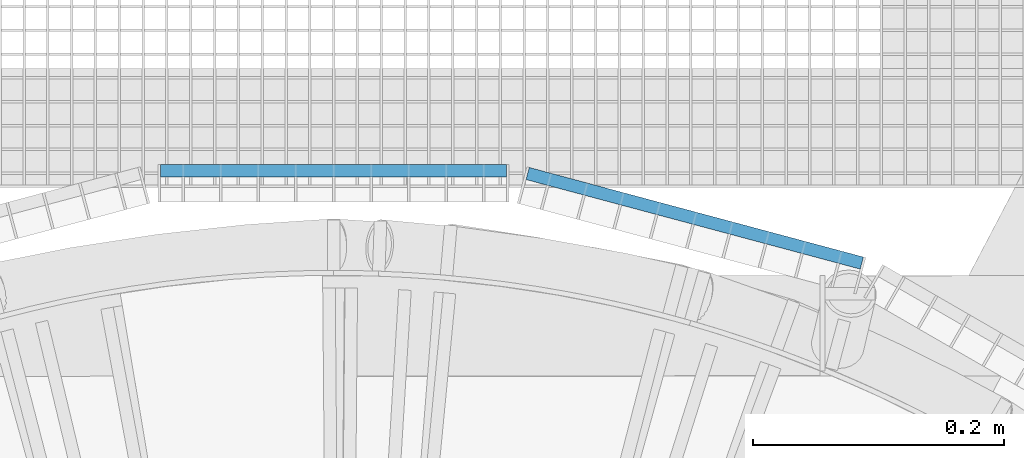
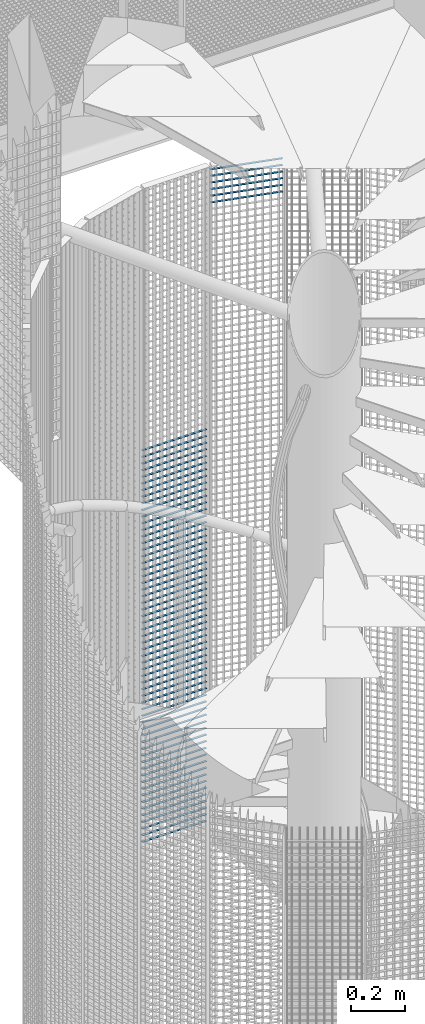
# One storey, part 319 of 1183: 66 beams, 2 elements without a shape of their own.
"""IFC2X3 building model written with IfcOpenShell, lengths in millimetres."""

from ifc_helpers import new_model, si_unit, frame, origin_with_axes, origin_2d_with_axis, place, context, subcontext, project, spatial, rectangle, extrude, material, type_object, element, aggregate, save


model = new_model("IFC2X3")

# Units and contexts
model_context = context("Model", 3, precision=1e-05, world=origin_with_axes())
body_context = subcontext(model_context, "Body", "Model", "MODEL_VIEW")
ifc_project = project(units=[si_unit("LENGTHUNIT", "METRE", prefix="MILLI"), si_unit("AREAUNIT", "SQUARE_METRE"), si_unit("VOLUMEUNIT", "CUBIC_METRE"), si_unit("MASSUNIT", "GRAM", prefix="KILO"), si_unit("TIMEUNIT", "SECOND"), si_unit("PLANEANGLEUNIT", "RADIAN"), si_unit("SOLIDANGLEUNIT", "STERADIAN"), si_unit("THERMODYNAMICTEMPERATUREUNIT", "DEGREE_CELSIUS"), si_unit("LUMINOUSINTENSITYUNIT", "LUMEN")], contexts=[model_context])

# Site, building, storey
site_placement = place(None, origin_with_axes())
site = spatial("IfcSite", under=ifc_project, at=site_placement, Name="Undefined", CompositionType="ELEMENT")
building_placement = place(site_placement, origin_with_axes())
building = spatial("IfcBuilding", under=site, at=building_placement, Name="Undefined", CompositionType="ELEMENT")
storey_placement = place(building_placement, origin_with_axes())
storey = spatial("IfcBuildingStorey", under=building, at=storey_placement, Name="Undefined", CompositionType="ELEMENT", Elevation=0.0)

# Assembly, beams
assembly_1_placement = place(storey_placement, origin_with_axes())
assembly_1 = element("IfcElementAssembly", 1, at=assembly_1_placement, inside=storey, Name="BORDURE", AssemblyPlace="NOTDEFINED", PredefinedType="NOTDEFINED")
ifc_material = material(Name="STEEL/S235JR")
beam_type = type_object("IfcBeamType", Name="PL2*10", PredefinedType="NOTDEFINED")
beam_1_placement = place(assembly_1_placement, frame((137.996003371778, 1113.47999999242, 4800.0), z_axis=(0.0, 1.0, 0.0), x_axis=(-1.0, 0.0, 0.0)))
beam_1 = element("IfcBeam", 2, at=beam_1_placement, type_object=beam_type, material=ifc_material, Name="ENTRETOISE", context=body_context, shape_type="SweptSolid", body=[
    extrude(rectangle(XDim=2.0, YDim=10.0, at=origin_2d_with_axis()), frame((275.999999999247, 9.09494701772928e-13, 1.53210777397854e-14), z_axis=(-1.0, 0.0, 0.0), x_axis=(0.0, -1.0, 0.0)), (0.0, 0.0, 1.0), 276.0),
])
beam_2_placement = place(assembly_1_placement, frame((137.996003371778, 1113.47999999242, 4770.0), z_axis=(0.0, 1.0, 0.0), x_axis=(-1.0, 0.0, 0.0)))
beam_2 = element("IfcBeam", 3, at=beam_2_placement, type_object=beam_type, material=ifc_material, Name="ENTRETOISE", context=body_context, shape_type="SweptSolid", body=[
    extrude(rectangle(XDim=2.0, YDim=10.0, at=origin_2d_with_axis()), frame((275.999999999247, 9.09494701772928e-13, 1.53210777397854e-14), z_axis=(-1.0, 0.0, 0.0), x_axis=(0.0, -1.0, 0.0)), (0.0, 0.0, 1.0), 276.0),
])
beam_3_placement = place(assembly_1_placement, frame((137.996003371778, 1113.47999999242, 4740.0), z_axis=(0.0, 1.0, 0.0), x_axis=(-1.0, 0.0, 0.0)))
beam_3 = element("IfcBeam", 4, at=beam_3_placement, type_object=beam_type, material=ifc_material, Name="ENTRETOISE", context=body_context, shape_type="SweptSolid", body=[
    extrude(rectangle(XDim=2.0, YDim=10.0, at=origin_2d_with_axis()), frame((275.999999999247, 9.09494701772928e-13, 1.53210777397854e-14), z_axis=(-1.0, 0.0, 0.0), x_axis=(0.0, -1.0, 0.0)), (0.0, 0.0, 1.0), 276.0),
])
beam_4_placement = place(assembly_1_placement, frame((137.996003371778, 1113.47999999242, 4710.0), z_axis=(0.0, 1.0, 0.0), x_axis=(-1.0, 0.0, 0.0)))
beam_4 = element("IfcBeam", 5, at=beam_4_placement, type_object=beam_type, material=ifc_material, Name="ENTRETOISE", context=body_context, shape_type="SweptSolid", body=[
    extrude(rectangle(XDim=2.0, YDim=10.0, at=origin_2d_with_axis()), frame((275.999999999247, 9.09494701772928e-13, 1.53210777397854e-14), z_axis=(-1.0, 0.0, 0.0), x_axis=(0.0, -1.0, 0.0)), (0.0, 0.0, 1.0), 276.0),
])
beam_5_placement = place(assembly_1_placement, frame((137.996003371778, 1113.47999999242, 4680.0), z_axis=(0.0, 1.0, 0.0), x_axis=(-1.0, 0.0, 0.0)))
beam_5 = element("IfcBeam", 6, at=beam_5_placement, type_object=beam_type, material=ifc_material, Name="ENTRETOISE", context=body_context, shape_type="SweptSolid", body=[
    extrude(rectangle(XDim=2.0, YDim=10.0, at=origin_2d_with_axis()), frame((275.999999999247, 9.09494701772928e-13, 1.53210777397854e-14), z_axis=(-1.0, 0.0, 0.0), x_axis=(0.0, -1.0, 0.0)), (0.0, 0.0, 1.0), 276.0),
])
beam_6_placement = place(assembly_1_placement, frame((137.996003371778, 1113.47999999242, 4650.0), z_axis=(0.0, 1.0, 0.0), x_axis=(-1.0, 0.0, 0.0)))
beam_6 = element("IfcBeam", 7, at=beam_6_placement, type_object=beam_type, material=ifc_material, Name="ENTRETOISE", context=body_context, shape_type="SweptSolid", body=[
    extrude(rectangle(XDim=2.0, YDim=10.0, at=origin_2d_with_axis()), frame((275.999999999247, 9.09494701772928e-13, 1.53210777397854e-14), z_axis=(-1.0, 0.0, 0.0), x_axis=(0.0, -1.0, 0.0)), (0.0, 0.0, 1.0), 276.0),
])
beam_7_placement = place(assembly_1_placement, frame((137.996003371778, 1113.47999999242, 4620.0), z_axis=(0.0, 1.0, 0.0), x_axis=(-1.0, 0.0, 0.0)))
beam_7 = element("IfcBeam", 8, at=beam_7_placement, type_object=beam_type, material=ifc_material, Name="ENTRETOISE", context=body_context, shape_type="SweptSolid", body=[
    extrude(rectangle(XDim=2.0, YDim=10.0, at=origin_2d_with_axis()), frame((275.999999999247, 9.09494701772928e-13, 1.53210777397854e-14), z_axis=(-1.0, 0.0, 0.0), x_axis=(0.0, -1.0, 0.0)), (0.0, 0.0, 1.0), 276.0),
])
beam_8_placement = place(assembly_1_placement, frame((137.996003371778, 1113.47999999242, 4590.0), z_axis=(0.0, 1.0, 0.0), x_axis=(-1.0, 0.0, 0.0)))
beam_8 = element("IfcBeam", 9, at=beam_8_placement, type_object=beam_type, material=ifc_material, Name="ENTRETOISE", context=body_context, shape_type="SweptSolid", body=[
    extrude(rectangle(XDim=2.0, YDim=10.0, at=origin_2d_with_axis()), frame((275.999999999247, 9.09494701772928e-13, 1.53210777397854e-14), z_axis=(-1.0, 0.0, 0.0), x_axis=(0.0, -1.0, 0.0)), (0.0, 0.0, 1.0), 276.0),
])
beam_9_placement = place(assembly_1_placement, frame((137.996003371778, 1113.47999999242, 4560.0), z_axis=(0.0, 1.0, 0.0), x_axis=(-1.0, 0.0, 0.0)))
beam_9 = element("IfcBeam", 10, at=beam_9_placement, type_object=beam_type, material=ifc_material, Name="ENTRETOISE", context=body_context, shape_type="SweptSolid", body=[
    extrude(rectangle(XDim=2.0, YDim=10.0, at=origin_2d_with_axis()), frame((275.999999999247, 9.09494701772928e-13, 1.53210777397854e-14), z_axis=(-1.0, 0.0, 0.0), x_axis=(0.0, -1.0, 0.0)), (0.0, 0.0, 1.0), 276.0),
])
beam_10_placement = place(assembly_1_placement, frame((137.996003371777, 1113.47999999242, 4530.0), z_axis=(0.0, 1.0, 0.0), x_axis=(-1.0, 0.0, 0.0)))
beam_10 = element("IfcBeam", 11, at=beam_10_placement, type_object=beam_type, material=ifc_material, Name="ENTRETOISE", context=body_context, shape_type="SweptSolid", body=[
    extrude(rectangle(XDim=2.0, YDim=10.0, at=origin_2d_with_axis()), frame((275.999999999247, 9.09494701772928e-13, 1.53210777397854e-14), z_axis=(-1.0, 0.0, 0.0), x_axis=(0.0, -1.0, 0.0)), (0.0, 0.0, 1.0), 276.0),
])
beam_11_placement = place(assembly_1_placement, frame((137.996003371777, 1113.47999999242, 4500.0), z_axis=(0.0, 1.0, 0.0), x_axis=(-1.0, 0.0, 0.0)))
beam_11 = element("IfcBeam", 12, at=beam_11_placement, type_object=beam_type, material=ifc_material, Name="ENTRETOISE", context=body_context, shape_type="SweptSolid", body=[
    extrude(rectangle(XDim=2.0, YDim=10.0, at=origin_2d_with_axis()), frame((275.999999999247, 9.09494701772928e-13, 1.53210777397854e-14), z_axis=(-1.0, 0.0, 0.0), x_axis=(0.0, -1.0, 0.0)), (0.0, 0.0, 1.0), 276.0),
])
beam_12_placement = place(assembly_1_placement, frame((137.996003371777, 1113.47999999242, 4470.0), z_axis=(0.0, 1.0, 0.0), x_axis=(-1.0, 0.0, 0.0)))
beam_12 = element("IfcBeam", 13, at=beam_12_placement, type_object=beam_type, material=ifc_material, Name="ENTRETOISE", context=body_context, shape_type="SweptSolid", body=[
    extrude(rectangle(XDim=2.0, YDim=10.0, at=origin_2d_with_axis()), frame((275.999999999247, 9.09494701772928e-13, 1.53210777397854e-14), z_axis=(-1.0, 0.0, 0.0), x_axis=(0.0, -1.0, 0.0)), (0.0, 0.0, 1.0), 276.0),
])
beam_13_placement = place(assembly_1_placement, frame((137.996003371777, 1113.47999999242, 4440.0), z_axis=(0.0, 1.0, 0.0), x_axis=(-1.0, 0.0, 0.0)))
beam_13 = element("IfcBeam", 14, at=beam_13_placement, type_object=beam_type, material=ifc_material, Name="ENTRETOISE", context=body_context, shape_type="SweptSolid", body=[
    extrude(rectangle(XDim=2.0, YDim=10.0, at=origin_2d_with_axis()), frame((275.999999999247, 9.09494701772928e-13, 1.53210777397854e-14), z_axis=(-1.0, 0.0, 0.0), x_axis=(0.0, -1.0, 0.0)), (0.0, 0.0, 1.0), 276.0),
])
beam_14_placement = place(assembly_1_placement, frame((137.996003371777, 1113.47999999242, 4410.0), z_axis=(0.0, 1.0, 0.0), x_axis=(-1.0, 0.0, 0.0)))
beam_14 = element("IfcBeam", 15, at=beam_14_placement, type_object=beam_type, material=ifc_material, Name="ENTRETOISE", context=body_context, shape_type="SweptSolid", body=[
    extrude(rectangle(XDim=2.0, YDim=10.0, at=origin_2d_with_axis()), frame((275.999999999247, 9.09494701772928e-13, 1.53210777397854e-14), z_axis=(-1.0, 0.0, 0.0), x_axis=(0.0, -1.0, 0.0)), (0.0, 0.0, 1.0), 276.0),
])
beam_15_placement = place(assembly_1_placement, frame((137.996003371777, 1113.47999999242, 4380.0), z_axis=(0.0, 1.0, 0.0), x_axis=(-1.0, 0.0, 0.0)))
beam_15 = element("IfcBeam", 16, at=beam_15_placement, type_object=beam_type, material=ifc_material, Name="ENTRETOISE", context=body_context, shape_type="SweptSolid", body=[
    extrude(rectangle(XDim=2.0, YDim=10.0, at=origin_2d_with_axis()), frame((275.999999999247, 9.09494701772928e-13, 1.53210777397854e-14), z_axis=(-1.0, 0.0, 0.0), x_axis=(0.0, -1.0, 0.0)), (0.0, 0.0, 1.0), 276.0),
])
beam_16_placement = place(assembly_1_placement, frame((137.996003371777, 1113.47999999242, 4350.0), z_axis=(0.0, 1.0, 0.0), x_axis=(-1.0, 0.0, 0.0)))
beam_16 = element("IfcBeam", 17, at=beam_16_placement, type_object=beam_type, material=ifc_material, Name="ENTRETOISE", context=body_context, shape_type="SweptSolid", body=[
    extrude(rectangle(XDim=2.0, YDim=10.0, at=origin_2d_with_axis()), frame((275.999999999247, 9.09494701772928e-13, 1.53210777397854e-14), z_axis=(-1.0, 0.0, 0.0), x_axis=(0.0, -1.0, 0.0)), (0.0, 0.0, 1.0), 276.0),
])
beam_17_placement = place(assembly_1_placement, frame((137.996003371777, 1113.47999999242, 4320.0), z_axis=(0.0, 1.0, 0.0), x_axis=(-1.0, 0.0, 0.0)))
beam_17 = element("IfcBeam", 18, at=beam_17_placement, type_object=beam_type, material=ifc_material, Name="ENTRETOISE", context=body_context, shape_type="SweptSolid", body=[
    extrude(rectangle(XDim=2.0, YDim=10.0, at=origin_2d_with_axis()), frame((275.999999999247, 9.09494701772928e-13, 1.53210777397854e-14), z_axis=(-1.0, 0.0, 0.0), x_axis=(0.0, -1.0, 0.0)), (0.0, 0.0, 1.0), 276.0),
])
beam_18_placement = place(assembly_1_placement, frame((137.996003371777, 1113.47999999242, 4290.0), z_axis=(0.0, 1.0, 0.0), x_axis=(-1.0, 0.0, 0.0)))
beam_18 = element("IfcBeam", 19, at=beam_18_placement, type_object=beam_type, material=ifc_material, Name="ENTRETOISE", context=body_context, shape_type="SweptSolid", body=[
    extrude(rectangle(XDim=2.0, YDim=10.0, at=origin_2d_with_axis()), frame((275.999999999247, 9.09494701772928e-13, 1.53210777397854e-14), z_axis=(-1.0, 0.0, 0.0), x_axis=(0.0, -1.0, 0.0)), (0.0, 0.0, 1.0), 276.0),
])
beam_19_placement = place(assembly_1_placement, frame((137.996003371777, 1113.47999999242, 4260.0), z_axis=(0.0, 1.0, 0.0), x_axis=(-1.0, 0.0, 0.0)))
beam_19 = element("IfcBeam", 20, at=beam_19_placement, type_object=beam_type, material=ifc_material, Name="ENTRETOISE", context=body_context, shape_type="SweptSolid", body=[
    extrude(rectangle(XDim=2.0, YDim=10.0, at=origin_2d_with_axis()), frame((275.999999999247, 9.09494701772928e-13, 1.53210777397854e-14), z_axis=(-1.0, 0.0, 0.0), x_axis=(0.0, -1.0, 0.0)), (0.0, 0.0, 1.0), 276.0),
])
beam_20_placement = place(assembly_1_placement, frame((137.996003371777, 1113.47999999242, 4230.0), z_axis=(0.0, 1.0, 0.0), x_axis=(-1.0, 0.0, 0.0)))
beam_20 = element("IfcBeam", 21, at=beam_20_placement, type_object=beam_type, material=ifc_material, Name="ENTRETOISE", context=body_context, shape_type="SweptSolid", body=[
    extrude(rectangle(XDim=2.0, YDim=10.0, at=origin_2d_with_axis()), frame((275.999999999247, 9.09494701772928e-13, 1.53210777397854e-14), z_axis=(-1.0, 0.0, 0.0), x_axis=(0.0, -1.0, 0.0)), (0.0, 0.0, 1.0), 276.0),
])
beam_21_placement = place(assembly_1_placement, frame((137.996003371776, 1113.47999999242, 4200.0), z_axis=(0.0, 1.0, 0.0), x_axis=(-1.0, 0.0, 0.0)))
beam_21 = element("IfcBeam", 22, at=beam_21_placement, type_object=beam_type, material=ifc_material, Name="ENTRETOISE", context=body_context, shape_type="SweptSolid", body=[
    extrude(rectangle(XDim=2.0, YDim=10.0, at=origin_2d_with_axis()), frame((275.999999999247, 9.09494701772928e-13, 1.53210777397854e-14), z_axis=(-1.0, 0.0, 0.0), x_axis=(0.0, -1.0, 0.0)), (0.0, 0.0, 1.0), 276.0),
])
beam_22_placement = place(assembly_1_placement, frame((137.996003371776, 1113.47999999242, 4170.0), z_axis=(0.0, 1.0, 0.0), x_axis=(-1.0, 0.0, 0.0)))
beam_22 = element("IfcBeam", 23, at=beam_22_placement, type_object=beam_type, material=ifc_material, Name="ENTRETOISE", context=body_context, shape_type="SweptSolid", body=[
    extrude(rectangle(XDim=2.0, YDim=10.0, at=origin_2d_with_axis()), frame((275.999999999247, 9.09494701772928e-13, 1.53210777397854e-14), z_axis=(-1.0, 0.0, 0.0), x_axis=(0.0, -1.0, 0.0)), (0.0, 0.0, 1.0), 276.0),
])
beam_23_placement = place(assembly_1_placement, frame((137.996003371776, 1113.47999999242, 4140.0), z_axis=(0.0, 1.0, 0.0), x_axis=(-1.0, 0.0, 0.0)))
beam_23 = element("IfcBeam", 24, at=beam_23_placement, type_object=beam_type, material=ifc_material, Name="ENTRETOISE", context=body_context, shape_type="SweptSolid", body=[
    extrude(rectangle(XDim=2.0, YDim=10.0, at=origin_2d_with_axis()), frame((275.999999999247, 9.09494701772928e-13, 1.53210777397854e-14), z_axis=(-1.0, 0.0, 0.0), x_axis=(0.0, -1.0, 0.0)), (0.0, 0.0, 1.0), 276.0),
])
beam_24_placement = place(assembly_1_placement, frame((137.996003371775, 1113.47999999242, 3720.0), z_axis=(0.0, 1.0, 0.0), x_axis=(-1.0, 0.0, 0.0)))
beam_24 = element("IfcBeam", 25, at=beam_24_placement, type_object=beam_type, material=ifc_material, Name="ENTRETOISE", context=body_context, shape_type="SweptSolid", body=[
    extrude(rectangle(XDim=2.0, YDim=10.0, at=origin_2d_with_axis()), frame((275.999999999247, 9.09494701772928e-13, 1.53210777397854e-14), z_axis=(-1.0, 0.0, 0.0), x_axis=(0.0, -1.0, 0.0)), (0.0, 0.0, 1.0), 276.0),
])
beam_25_placement = place(assembly_1_placement, frame((137.996003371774, 1113.47999999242, 3690.0), z_axis=(0.0, 1.0, 0.0), x_axis=(-1.0, 0.0, 0.0)))
beam_25 = element("IfcBeam", 26, at=beam_25_placement, type_object=beam_type, material=ifc_material, Name="ENTRETOISE", context=body_context, shape_type="SweptSolid", body=[
    extrude(rectangle(XDim=2.0, YDim=10.0, at=origin_2d_with_axis()), frame((275.999999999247, 9.09494701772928e-13, 1.53210777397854e-14), z_axis=(-1.0, 0.0, 0.0), x_axis=(0.0, -1.0, 0.0)), (0.0, 0.0, 1.0), 276.0),
])
beam_26_placement = place(assembly_1_placement, frame((137.996003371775, 1113.47999999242, 3750.0), z_axis=(0.0, 1.0, 0.0), x_axis=(-1.0, 0.0, 0.0)))
beam_26 = element("IfcBeam", 27, at=beam_26_placement, type_object=beam_type, material=ifc_material, Name="ENTRETOISE", context=body_context, shape_type="SweptSolid", body=[
    extrude(rectangle(XDim=2.0, YDim=10.0, at=origin_2d_with_axis()), frame((275.999999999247, 9.09494701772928e-13, 1.53210777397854e-14), z_axis=(-1.0, 0.0, 0.0), x_axis=(0.0, -1.0, 0.0)), (0.0, 0.0, 1.0), 276.0),
])
beam_27_placement = place(assembly_1_placement, frame((137.996003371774, 1113.47999999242, 3660.0), z_axis=(0.0, 1.0, 0.0), x_axis=(-1.0, 0.0, 0.0)))
beam_27 = element("IfcBeam", 28, at=beam_27_placement, type_object=beam_type, material=ifc_material, Name="ENTRETOISE", context=body_context, shape_type="SweptSolid", body=[
    extrude(rectangle(XDim=2.0, YDim=10.0, at=origin_2d_with_axis()), frame((275.999999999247, 9.09494701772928e-13, 1.53210777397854e-14), z_axis=(-1.0, 0.0, 0.0), x_axis=(0.0, -1.0, 0.0)), (0.0, 0.0, 1.0), 276.0),
])
beam_28_placement = place(assembly_1_placement, frame((137.996003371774, 1113.47999999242, 3630.0), z_axis=(0.0, 1.0, 0.0), x_axis=(-1.0, 0.0, 0.0)))
beam_28 = element("IfcBeam", 29, at=beam_28_placement, type_object=beam_type, material=ifc_material, Name="ENTRETOISE", context=body_context, shape_type="SweptSolid", body=[
    extrude(rectangle(XDim=2.0, YDim=10.0, at=origin_2d_with_axis()), frame((275.999999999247, 9.09494701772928e-13, 1.53210777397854e-14), z_axis=(-1.0, 0.0, 0.0), x_axis=(0.0, -1.0, 0.0)), (0.0, 0.0, 1.0), 276.0),
])
beam_29_placement = place(assembly_1_placement, frame((137.996003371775, 1113.47999999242, 3780.0), z_axis=(0.0, 1.0, 0.0), x_axis=(-1.0, 0.0, 0.0)))
beam_29 = element("IfcBeam", 30, at=beam_29_placement, type_object=beam_type, material=ifc_material, Name="ENTRETOISE", context=body_context, shape_type="SweptSolid", body=[
    extrude(rectangle(XDim=2.0, YDim=10.0, at=origin_2d_with_axis()), frame((275.999999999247, 9.09494701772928e-13, 1.53210777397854e-14), z_axis=(-1.0, 0.0, 0.0), x_axis=(0.0, -1.0, 0.0)), (0.0, 0.0, 1.0), 276.0),
])
beam_30_placement = place(assembly_1_placement, frame((137.996003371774, 1113.47999999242, 3600.0), z_axis=(0.0, 1.0, 0.0), x_axis=(-1.0, 0.0, 0.0)))
beam_30 = element("IfcBeam", 31, at=beam_30_placement, type_object=beam_type, material=ifc_material, Name="ENTRETOISE", context=body_context, shape_type="SweptSolid", body=[
    extrude(rectangle(XDim=2.0, YDim=10.0, at=origin_2d_with_axis()), frame((275.999999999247, 9.09494701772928e-13, 1.53210777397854e-14), z_axis=(-1.0, 0.0, 0.0), x_axis=(0.0, -1.0, 0.0)), (0.0, 0.0, 1.0), 276.0),
])
beam_31_placement = place(assembly_1_placement, frame((137.996003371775, 1113.47999999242, 3810.0), z_axis=(0.0, 1.0, 0.0), x_axis=(-1.0, 0.0, 0.0)))
beam_31 = element("IfcBeam", 32, at=beam_31_placement, type_object=beam_type, material=ifc_material, Name="ENTRETOISE", context=body_context, shape_type="SweptSolid", body=[
    extrude(rectangle(XDim=2.0, YDim=10.0, at=origin_2d_with_axis()), frame((275.999999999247, 9.09494701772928e-13, 1.53210777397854e-14), z_axis=(-1.0, 0.0, 0.0), x_axis=(0.0, -1.0, 0.0)), (0.0, 0.0, 1.0), 276.0),
])
beam_32_placement = place(assembly_1_placement, frame((137.996003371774, 1113.47999999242, 3570.0), z_axis=(0.0, 1.0, 0.0), x_axis=(-1.0, 0.0, 0.0)))
beam_32 = element("IfcBeam", 33, at=beam_32_placement, type_object=beam_type, material=ifc_material, Name="ENTRETOISE", context=body_context, shape_type="SweptSolid", body=[
    extrude(rectangle(XDim=2.0, YDim=10.0, at=origin_2d_with_axis()), frame((275.999999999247, 9.09494701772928e-13, 1.53210777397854e-14), z_axis=(-1.0, 0.0, 0.0), x_axis=(0.0, -1.0, 0.0)), (0.0, 0.0, 1.0), 276.0),
])
beam_33_placement = place(assembly_1_placement, frame((137.996003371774, 1113.47999999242, 3540.0), z_axis=(0.0, 1.0, 0.0), x_axis=(-1.0, 0.0, 0.0)))
beam_33 = element("IfcBeam", 34, at=beam_33_placement, type_object=beam_type, material=ifc_material, Name="ENTRETOISE", context=body_context, shape_type="SweptSolid", body=[
    extrude(rectangle(XDim=2.0, YDim=10.0, at=origin_2d_with_axis()), frame((275.999999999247, 9.09494701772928e-13, 1.53210777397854e-14), z_axis=(-1.0, 0.0, 0.0), x_axis=(0.0, -1.0, 0.0)), (0.0, 0.0, 1.0), 276.0),
])
beam_34_placement = place(assembly_1_placement, frame((137.996003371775, 1113.47999999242, 3840.0), z_axis=(0.0, 1.0, 0.0), x_axis=(-1.0, 0.0, 0.0)))
beam_34 = element("IfcBeam", 35, at=beam_34_placement, type_object=beam_type, material=ifc_material, Name="ENTRETOISE", context=body_context, shape_type="SweptSolid", body=[
    extrude(rectangle(XDim=2.0, YDim=10.0, at=origin_2d_with_axis()), frame((275.999999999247, 9.09494701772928e-13, 1.53210777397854e-14), z_axis=(-1.0, 0.0, 0.0), x_axis=(0.0, -1.0, 0.0)), (0.0, 0.0, 1.0), 276.0),
])
beam_35_placement = place(assembly_1_placement, frame((137.996003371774, 1113.47999999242, 3510.0), z_axis=(0.0, 1.0, 0.0), x_axis=(-1.0, 0.0, 0.0)))
beam_35 = element("IfcBeam", 36, at=beam_35_placement, type_object=beam_type, material=ifc_material, Name="ENTRETOISE", context=body_context, shape_type="SweptSolid", body=[
    extrude(rectangle(XDim=2.0, YDim=10.0, at=origin_2d_with_axis()), frame((275.999999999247, 9.09494701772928e-13, 1.53210777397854e-14), z_axis=(-1.0, 0.0, 0.0), x_axis=(0.0, -1.0, 0.0)), (0.0, 0.0, 1.0), 276.0),
])
beam_36_placement = place(assembly_1_placement, frame((137.996003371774, 1113.47999999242, 3480.0), z_axis=(0.0, 1.0, 0.0), x_axis=(-1.0, 0.0, 0.0)))
beam_36 = element("IfcBeam", 37, at=beam_36_placement, type_object=beam_type, material=ifc_material, Name="ENTRETOISE", context=body_context, shape_type="SweptSolid", body=[
    extrude(rectangle(XDim=2.0, YDim=10.0, at=origin_2d_with_axis()), frame((275.999999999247, 9.09494701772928e-13, 1.53210777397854e-14), z_axis=(-1.0, 0.0, 0.0), x_axis=(0.0, -1.0, 0.0)), (0.0, 0.0, 1.0), 276.0),
])
beam_37_placement = place(assembly_1_placement, frame((137.996003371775, 1113.47999999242, 3870.0), z_axis=(0.0, 1.0, 0.0), x_axis=(-1.0, 0.0, 0.0)))
beam_37 = element("IfcBeam", 38, at=beam_37_placement, type_object=beam_type, material=ifc_material, Name="ENTRETOISE", context=body_context, shape_type="SweptSolid", body=[
    extrude(rectangle(XDim=2.0, YDim=10.0, at=origin_2d_with_axis()), frame((275.999999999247, 9.09494701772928e-13, 1.53210777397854e-14), z_axis=(-1.0, 0.0, 0.0), x_axis=(0.0, -1.0, 0.0)), (0.0, 0.0, 1.0), 276.0),
])
beam_38_placement = place(assembly_1_placement, frame((137.996003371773, 1113.47999999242, 3450.0), z_axis=(0.0, 1.0, 0.0), x_axis=(-1.0, 0.0, 0.0)))
beam_38 = element("IfcBeam", 39, at=beam_38_placement, type_object=beam_type, material=ifc_material, Name="ENTRETOISE", context=body_context, shape_type="SweptSolid", body=[
    extrude(rectangle(XDim=2.0, YDim=10.0, at=origin_2d_with_axis()), frame((275.999999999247, 9.09494701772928e-13, 1.53210777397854e-14), z_axis=(-1.0, 0.0, 0.0), x_axis=(0.0, -1.0, 0.0)), (0.0, 0.0, 1.0), 276.0),
])
beam_39_placement = place(assembly_1_placement, frame((137.996003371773, 1113.47999999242, 3420.0), z_axis=(0.0, 1.0, 0.0), x_axis=(-1.0, 0.0, 0.0)))
beam_39 = element("IfcBeam", 40, at=beam_39_placement, type_object=beam_type, material=ifc_material, Name="ENTRETOISE", context=body_context, shape_type="SweptSolid", body=[
    extrude(rectangle(XDim=2.0, YDim=10.0, at=origin_2d_with_axis()), frame((275.999999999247, 9.09494701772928e-13, 1.53210777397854e-14), z_axis=(-1.0, 0.0, 0.0), x_axis=(0.0, -1.0, 0.0)), (0.0, 0.0, 1.0), 276.0),
])
beam_40_placement = place(assembly_1_placement, frame((137.996003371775, 1113.47999999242, 3900.0), z_axis=(0.0, 1.0, 0.0), x_axis=(-1.0, 0.0, 0.0)))
beam_40 = element("IfcBeam", 41, at=beam_40_placement, type_object=beam_type, material=ifc_material, Name="ENTRETOISE", context=body_context, shape_type="SweptSolid", body=[
    extrude(rectangle(XDim=2.0, YDim=10.0, at=origin_2d_with_axis()), frame((275.999999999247, 9.09494701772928e-13, 1.53210777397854e-14), z_axis=(-1.0, 0.0, 0.0), x_axis=(0.0, -1.0, 0.0)), (0.0, 0.0, 1.0), 276.0),
])
beam_41_placement = place(assembly_1_placement, frame((137.996003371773, 1113.47999999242, 3390.0), z_axis=(0.0, 1.0, 0.0), x_axis=(-1.0, 0.0, 0.0)))
beam_41 = element("IfcBeam", 42, at=beam_41_placement, type_object=beam_type, material=ifc_material, Name="ENTRETOISE", context=body_context, shape_type="SweptSolid", body=[
    extrude(rectangle(XDim=2.0, YDim=10.0, at=origin_2d_with_axis()), frame((275.999999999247, 9.09494701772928e-13, 1.53210777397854e-14), z_axis=(-1.0, 0.0, 0.0), x_axis=(0.0, -1.0, 0.0)), (0.0, 0.0, 1.0), 276.0),
])
beam_42_placement = place(assembly_1_placement, frame((137.996003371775, 1113.47999999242, 3930.0), z_axis=(0.0, 1.0, 0.0), x_axis=(-1.0, 0.0, 0.0)))
beam_42 = element("IfcBeam", 43, at=beam_42_placement, type_object=beam_type, material=ifc_material, Name="ENTRETOISE", context=body_context, shape_type="SweptSolid", body=[
    extrude(rectangle(XDim=2.0, YDim=10.0, at=origin_2d_with_axis()), frame((275.999999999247, 9.09494701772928e-13, 1.53210777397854e-14), z_axis=(-1.0, 0.0, 0.0), x_axis=(0.0, -1.0, 0.0)), (0.0, 0.0, 1.0), 276.0),
])
beam_43_placement = place(assembly_1_placement, frame((137.996003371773, 1113.47999999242, 3360.0), z_axis=(0.0, 1.0, 0.0), x_axis=(-1.0, 0.0, 0.0)))
beam_43 = element("IfcBeam", 44, at=beam_43_placement, type_object=beam_type, material=ifc_material, Name="ENTRETOISE", context=body_context, shape_type="SweptSolid", body=[
    extrude(rectangle(XDim=2.0, YDim=10.0, at=origin_2d_with_axis()), frame((275.999999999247, 9.09494701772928e-13, 1.53210777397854e-14), z_axis=(-1.0, 0.0, 0.0), x_axis=(0.0, -1.0, 0.0)), (0.0, 0.0, 1.0), 276.0),
])
beam_44_placement = place(assembly_1_placement, frame((137.996003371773, 1113.47999999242, 3330.0), z_axis=(0.0, 1.0, 0.0), x_axis=(-1.0, 0.0, 0.0)))
beam_44 = element("IfcBeam", 45, at=beam_44_placement, type_object=beam_type, material=ifc_material, Name="ENTRETOISE", context=body_context, shape_type="SweptSolid", body=[
    extrude(rectangle(XDim=2.0, YDim=10.0, at=origin_2d_with_axis()), frame((275.999999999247, 9.09494701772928e-13, 1.53210777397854e-14), z_axis=(-1.0, 0.0, 0.0), x_axis=(0.0, -1.0, 0.0)), (0.0, 0.0, 1.0), 276.0),
])
beam_45_placement = place(assembly_1_placement, frame((137.996003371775, 1113.47999999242, 3960.0), z_axis=(0.0, 1.0, 0.0), x_axis=(-1.0, 0.0, 0.0)))
beam_45 = element("IfcBeam", 46, at=beam_45_placement, type_object=beam_type, material=ifc_material, Name="ENTRETOISE", context=body_context, shape_type="SweptSolid", body=[
    extrude(rectangle(XDim=2.0, YDim=10.0, at=origin_2d_with_axis()), frame((275.999999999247, 9.09494701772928e-13, 1.53210777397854e-14), z_axis=(-1.0, 0.0, 0.0), x_axis=(0.0, -1.0, 0.0)), (0.0, 0.0, 1.0), 276.0),
])
beam_46_placement = place(assembly_1_placement, frame((137.996003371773, 1113.47999999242, 3300.0), z_axis=(0.0, 1.0, 0.0), x_axis=(-1.0, 0.0, 0.0)))
beam_46 = element("IfcBeam", 47, at=beam_46_placement, type_object=beam_type, material=ifc_material, Name="ENTRETOISE", context=body_context, shape_type="SweptSolid", body=[
    extrude(rectangle(XDim=2.0, YDim=10.0, at=origin_2d_with_axis()), frame((275.999999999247, 9.09494701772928e-13, 1.53210777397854e-14), z_axis=(-1.0, 0.0, 0.0), x_axis=(0.0, -1.0, 0.0)), (0.0, 0.0, 1.0), 276.0),
])
beam_47_placement = place(assembly_1_placement, frame((137.996003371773, 1113.47999999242, 3270.0), z_axis=(0.0, 1.0, 0.0), x_axis=(-1.0, 0.0, 0.0)))
beam_47 = element("IfcBeam", 48, at=beam_47_placement, type_object=beam_type, material=ifc_material, Name="ENTRETOISE", context=body_context, shape_type="SweptSolid", body=[
    extrude(rectangle(XDim=2.0, YDim=10.0, at=origin_2d_with_axis()), frame((275.999999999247, 9.09494701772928e-13, 1.53210777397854e-14), z_axis=(-1.0, 0.0, 0.0), x_axis=(0.0, -1.0, 0.0)), (0.0, 0.0, 1.0), 276.0),
])
beam_48_placement = place(assembly_1_placement, frame((137.996003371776, 1113.47999999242, 3990.0), z_axis=(0.0, 1.0, 0.0), x_axis=(-1.0, 0.0, 0.0)))
beam_48 = element("IfcBeam", 49, at=beam_48_placement, type_object=beam_type, material=ifc_material, Name="ENTRETOISE", context=body_context, shape_type="SweptSolid", body=[
    extrude(rectangle(XDim=2.0, YDim=10.0, at=origin_2d_with_axis()), frame((275.999999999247, 9.09494701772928e-13, 1.53210777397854e-14), z_axis=(-1.0, 0.0, 0.0), x_axis=(0.0, -1.0, 0.0)), (0.0, 0.0, 1.0), 276.0),
])
beam_49_placement = place(assembly_1_placement, frame((137.996003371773, 1113.47999999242, 3240.0), z_axis=(0.0, 1.0, 0.0), x_axis=(-1.0, 0.0, 0.0)))
beam_49 = element("IfcBeam", 50, at=beam_49_placement, type_object=beam_type, material=ifc_material, Name="ENTRETOISE", context=body_context, shape_type="SweptSolid", body=[
    extrude(rectangle(XDim=2.0, YDim=10.0, at=origin_2d_with_axis()), frame((275.999999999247, 9.09494701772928e-13, 1.53210777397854e-14), z_axis=(-1.0, 0.0, 0.0), x_axis=(0.0, -1.0, 0.0)), (0.0, 0.0, 1.0), 276.0),
])
beam_50_placement = place(assembly_1_placement, frame((137.996003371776, 1113.47999999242, 4020.0), z_axis=(0.0, 1.0, 0.0), x_axis=(-1.0, 0.0, 0.0)))
beam_50 = element("IfcBeam", 51, at=beam_50_placement, type_object=beam_type, material=ifc_material, Name="ENTRETOISE", context=body_context, shape_type="SweptSolid", body=[
    extrude(rectangle(XDim=2.0, YDim=10.0, at=origin_2d_with_axis()), frame((275.999999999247, 9.09494701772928e-13, 1.53210777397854e-14), z_axis=(-1.0, 0.0, 0.0), x_axis=(0.0, -1.0, 0.0)), (0.0, 0.0, 1.0), 276.0),
])
beam_51_placement = place(assembly_1_placement, frame((137.996003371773, 1113.47999999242, 3210.0), z_axis=(0.0, 1.0, 0.0), x_axis=(-1.0, 0.0, 0.0)))
beam_51 = element("IfcBeam", 52, at=beam_51_placement, type_object=beam_type, material=ifc_material, Name="ENTRETOISE", context=body_context, shape_type="SweptSolid", body=[
    extrude(rectangle(XDim=2.0, YDim=10.0, at=origin_2d_with_axis()), frame((275.999999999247, 9.09494701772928e-13, 1.53210777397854e-14), z_axis=(-1.0, 0.0, 0.0), x_axis=(0.0, -1.0, 0.0)), (0.0, 0.0, 1.0), 276.0),
])
beam_52_placement = place(assembly_1_placement, frame((137.996003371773, 1113.47999999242, 3180.0), z_axis=(0.0, 1.0, 0.0), x_axis=(-1.0, 0.0, 0.0)))
beam_52 = element("IfcBeam", 53, at=beam_52_placement, type_object=beam_type, material=ifc_material, Name="ENTRETOISE", context=body_context, shape_type="SweptSolid", body=[
    extrude(rectangle(XDim=2.0, YDim=10.0, at=origin_2d_with_axis()), frame((275.999999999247, 9.09494701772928e-13, 1.53210777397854e-14), z_axis=(-1.0, 0.0, 0.0), x_axis=(0.0, -1.0, 0.0)), (0.0, 0.0, 1.0), 276.0),
])
beam_53_placement = place(assembly_1_placement, frame((137.996003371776, 1113.47999999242, 4050.0), z_axis=(0.0, 1.0, 0.0), x_axis=(-1.0, 0.0, 0.0)))
beam_53 = element("IfcBeam", 54, at=beam_53_placement, type_object=beam_type, material=ifc_material, Name="ENTRETOISE", context=body_context, shape_type="SweptSolid", body=[
    extrude(rectangle(XDim=2.0, YDim=10.0, at=origin_2d_with_axis()), frame((275.999999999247, 9.09494701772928e-13, 1.53210777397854e-14), z_axis=(-1.0, 0.0, 0.0), x_axis=(0.0, -1.0, 0.0)), (0.0, 0.0, 1.0), 276.0),
])
beam_54_placement = place(assembly_1_placement, frame((137.996003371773, 1113.47999999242, 3150.0), z_axis=(0.0, 1.0, 0.0), x_axis=(-1.0, 0.0, 0.0)))
beam_54 = element("IfcBeam", 55, at=beam_54_placement, type_object=beam_type, material=ifc_material, Name="ENTRETOISE", context=body_context, shape_type="SweptSolid", body=[
    extrude(rectangle(XDim=2.0, YDim=10.0, at=origin_2d_with_axis()), frame((275.999999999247, 9.09494701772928e-13, 1.53210777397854e-14), z_axis=(-1.0, 0.0, 0.0), x_axis=(0.0, -1.0, 0.0)), (0.0, 0.0, 1.0), 276.0),
])
beam_55_placement = place(assembly_1_placement, frame((137.996003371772, 1113.47999999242, 3120.0), z_axis=(0.0, 1.0, 0.0), x_axis=(-1.0, 0.0, 0.0)))
beam_55 = element("IfcBeam", 56, at=beam_55_placement, type_object=beam_type, material=ifc_material, Name="ENTRETOISE", context=body_context, shape_type="SweptSolid", body=[
    extrude(rectangle(XDim=2.0, YDim=10.0, at=origin_2d_with_axis()), frame((275.999999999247, 9.09494701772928e-13, 1.53210777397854e-14), z_axis=(-1.0, 0.0, 0.0), x_axis=(0.0, -1.0, 0.0)), (0.0, 0.0, 1.0), 276.0),
])
beam_56_placement = place(assembly_1_placement, frame((137.996003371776, 1113.47999999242, 4080.0), z_axis=(0.0, 1.0, 0.0), x_axis=(-1.0, 0.0, 0.0)))
beam_56 = element("IfcBeam", 57, at=beam_56_placement, type_object=beam_type, material=ifc_material, Name="ENTRETOISE", context=body_context, shape_type="SweptSolid", body=[
    extrude(rectangle(XDim=2.0, YDim=10.0, at=origin_2d_with_axis()), frame((275.999999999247, 9.09494701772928e-13, 1.53210777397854e-14), z_axis=(-1.0, 0.0, 0.0), x_axis=(0.0, -1.0, 0.0)), (0.0, 0.0, 1.0), 276.0),
])
beam_57_placement = place(assembly_1_placement, frame((137.996003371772, 1113.47999999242, 3090.0), z_axis=(0.0, 1.0, 0.0), x_axis=(-1.0, 0.0, 0.0)))
beam_57 = element("IfcBeam", 58, at=beam_57_placement, type_object=beam_type, material=ifc_material, Name="ENTRETOISE", context=body_context, shape_type="SweptSolid", body=[
    extrude(rectangle(XDim=2.0, YDim=10.0, at=origin_2d_with_axis()), frame((275.999999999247, 9.09494701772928e-13, 1.53210777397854e-14), z_axis=(-1.0, 0.0, 0.0), x_axis=(0.0, -1.0, 0.0)), (0.0, 0.0, 1.0), 276.0),
])
beam_58_placement = place(assembly_1_placement, frame((137.996003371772, 1113.47999999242, 3060.0), z_axis=(0.0, 1.0, 0.0), x_axis=(-1.0, 0.0, 0.0)))
beam_58 = element("IfcBeam", 59, at=beam_58_placement, type_object=beam_type, material=ifc_material, Name="ENTRETOISE", context=body_context, shape_type="SweptSolid", body=[
    extrude(rectangle(XDim=2.0, YDim=10.0, at=origin_2d_with_axis()), frame((275.999999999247, 9.09494701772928e-13, 1.53210777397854e-14), z_axis=(-1.0, 0.0, 0.0), x_axis=(0.0, -1.0, 0.0)), (0.0, 0.0, 1.0), 276.0),
])
beam_59_placement = place(assembly_1_placement, frame((137.996003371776, 1113.47999999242, 4110.0), z_axis=(0.0, 1.0, 0.0), x_axis=(-1.0, 0.0, 0.0)))
beam_59 = element("IfcBeam", 60, at=beam_59_placement, type_object=beam_type, material=ifc_material, Name="ENTRETOISE", context=body_context, shape_type="SweptSolid", body=[
    extrude(rectangle(XDim=2.0, YDim=10.0, at=origin_2d_with_axis()), frame((275.999999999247, 9.09494701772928e-13, 1.53210777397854e-14), z_axis=(-1.0, 0.0, 0.0), x_axis=(0.0, -1.0, 0.0)), (0.0, 0.0, 1.0), 276.0),
])
beam_60_placement = place(assembly_1_placement, frame((137.996003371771, 1113.47999999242, 3030.0), z_axis=(0.0, 1.0, 0.0), x_axis=(-1.0, 0.0, 0.0)))
beam_60 = element("IfcBeam", 61, at=beam_60_placement, type_object=beam_type, material=ifc_material, Name="ENTRETOISE", context=body_context, shape_type="SweptSolid", body=[
    extrude(rectangle(XDim=2.0, YDim=10.0, at=origin_2d_with_axis()), frame((275.999999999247, 9.09494701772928e-13, 1.53210777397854e-14), z_axis=(-1.0, 0.0, 0.0), x_axis=(0.0, -1.0, 0.0)), (0.0, 0.0, 1.0), 276.0),
])
aggregate(assembly_1, [beam_1, beam_2, beam_3, beam_4, beam_5, beam_6, beam_7, beam_8, beam_9, beam_10, beam_11, beam_12, beam_13, beam_14, beam_15, beam_16, beam_17, beam_18, beam_19, beam_20, beam_21, beam_22, beam_23, beam_24, beam_25, beam_26, beam_27, beam_28, beam_29, beam_30, beam_31, beam_32, beam_33, beam_34, beam_35, beam_36, beam_37, beam_38, beam_39, beam_40, beam_41, beam_42, beam_43, beam_44, beam_45, beam_46, beam_47, beam_48, beam_49, beam_50, beam_51, beam_52, beam_53, beam_54, beam_55, beam_56, beam_57, beam_58, beam_59, beam_60])

assembly_2_placement = place(storey_placement, origin_with_axes())
assembly_2 = element("IfcElementAssembly", 62, at=assembly_2_placement, inside=storey, Name="BORDURE", AssemblyPlace="NOTDEFINED", PredefinedType="NOTDEFINED")
beam_61_placement = place(assembly_2_placement, frame((421.483733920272, 1039.82309522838, 5970.0), z_axis=(0.258819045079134, 0.965925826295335, 0.0), x_axis=(-0.965925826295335, 0.258819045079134, 0.0)))
beam_61 = element("IfcBeam", 63, at=beam_61_placement, type_object=beam_type, material=ifc_material, Name="ENTRETOISE", context=body_context, shape_type="SweptSolid", body=[
    extrude(rectangle(XDim=2.0, YDim=10.0, at=origin_2d_with_axis()), frame((275.999999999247, 9.09494701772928e-13, 1.53210777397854e-14), z_axis=(-1.0, 0.0, 0.0), x_axis=(0.0, -1.0, 0.0)), (0.0, 0.0, 1.0), 276.0),
])
beam_62_placement = place(assembly_2_placement, frame((421.483733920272, 1039.82309522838, 5940.0), z_axis=(0.258819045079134, 0.965925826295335, 0.0), x_axis=(-0.965925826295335, 0.258819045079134, 0.0)))
beam_62 = element("IfcBeam", 64, at=beam_62_placement, type_object=beam_type, material=ifc_material, Name="ENTRETOISE", context=body_context, shape_type="SweptSolid", body=[
    extrude(rectangle(XDim=2.0, YDim=10.0, at=origin_2d_with_axis()), frame((275.999999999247, 9.09494701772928e-13, 1.53210777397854e-14), z_axis=(-1.0, 0.0, 0.0), x_axis=(0.0, -1.0, 0.0)), (0.0, 0.0, 1.0), 276.0),
])
beam_63_placement = place(assembly_2_placement, frame((421.483733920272, 1039.82309522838, 5910.0), z_axis=(0.258819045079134, 0.965925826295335, 0.0), x_axis=(-0.965925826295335, 0.258819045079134, 0.0)))
beam_63 = element("IfcBeam", 65, at=beam_63_placement, type_object=beam_type, material=ifc_material, Name="ENTRETOISE", context=body_context, shape_type="SweptSolid", body=[
    extrude(rectangle(XDim=2.0, YDim=10.0, at=origin_2d_with_axis()), frame((275.999999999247, 9.09494701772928e-13, 1.53210777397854e-14), z_axis=(-1.0, 0.0, 0.0), x_axis=(0.0, -1.0, 0.0)), (0.0, 0.0, 1.0), 276.0),
])
beam_64_placement = place(assembly_2_placement, frame((421.483733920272, 1039.82309522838, 5880.0), z_axis=(0.258819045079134, 0.965925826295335, 0.0), x_axis=(-0.965925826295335, 0.258819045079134, 0.0)))
beam_64 = element("IfcBeam", 66, at=beam_64_placement, type_object=beam_type, material=ifc_material, Name="ENTRETOISE", context=body_context, shape_type="SweptSolid", body=[
    extrude(rectangle(XDim=2.0, YDim=10.0, at=origin_2d_with_axis()), frame((275.999999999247, 9.09494701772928e-13, 1.53210777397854e-14), z_axis=(-1.0, 0.0, 0.0), x_axis=(0.0, -1.0, 0.0)), (0.0, 0.0, 1.0), 276.0),
])
beam_65_placement = place(assembly_2_placement, frame((421.483733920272, 1039.82309522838, 5850.0), z_axis=(0.258819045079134, 0.965925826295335, 0.0), x_axis=(-0.965925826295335, 0.258819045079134, 0.0)))
beam_65 = element("IfcBeam", 67, at=beam_65_placement, type_object=beam_type, material=ifc_material, Name="ENTRETOISE", context=body_context, shape_type="SweptSolid", body=[
    extrude(rectangle(XDim=2.0, YDim=10.0, at=origin_2d_with_axis()), frame((275.999999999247, 9.09494701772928e-13, 1.53210777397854e-14), z_axis=(-1.0, 0.0, 0.0), x_axis=(0.0, -1.0, 0.0)), (0.0, 0.0, 1.0), 276.0),
])
beam_66_placement = place(assembly_2_placement, frame((421.483733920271, 1039.82309522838, 5820.0), z_axis=(0.258819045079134, 0.965925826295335, 0.0), x_axis=(-0.965925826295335, 0.258819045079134, 0.0)))
beam_66 = element("IfcBeam", 68, at=beam_66_placement, type_object=beam_type, material=ifc_material, Name="ENTRETOISE", context=body_context, shape_type="SweptSolid", body=[
    extrude(rectangle(XDim=2.0, YDim=10.0, at=origin_2d_with_axis()), frame((275.999999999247, 9.09494701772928e-13, 1.53210777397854e-14), z_axis=(-1.0, 0.0, 0.0), x_axis=(0.0, -1.0, 0.0)), (0.0, 0.0, 1.0), 276.0),
])
aggregate(assembly_2, [beam_61, beam_62, beam_63, beam_64, beam_65, beam_66])

save(model, "model.ifc")
